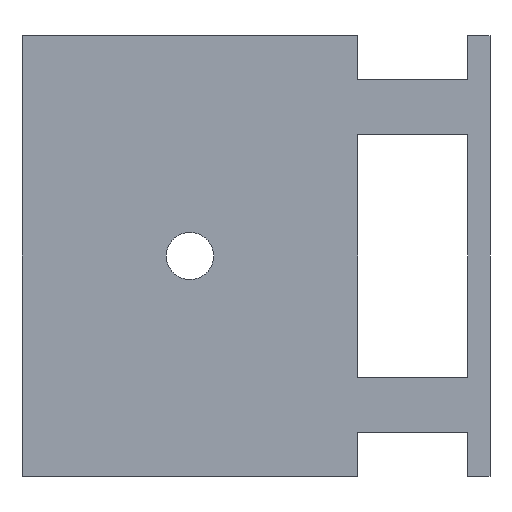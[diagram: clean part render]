
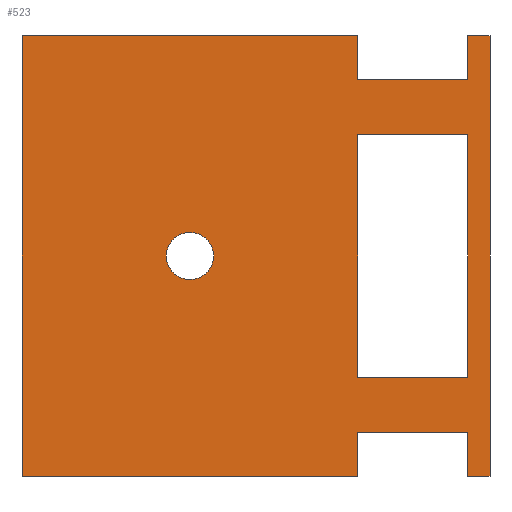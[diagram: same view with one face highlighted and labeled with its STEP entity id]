
A CAD part, front view. The second image highlights one B-rep face of the part: STEP entity #523.
In plain terms, the highlighted planar face has unit normal (0, -1, 0).
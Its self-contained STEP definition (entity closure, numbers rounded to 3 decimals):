
#1=DIRECTION('',(1.,0.,0.));
#2=VECTOR('',#1,30.5);
#3=CARTESIAN_POINT('',(-15.25,0.,-20.));
#4=LINE('',#3,#2);
#33=DIRECTION('',(1.,0.,0.));
#34=VECTOR('',#33,10.);
#35=CARTESIAN_POINT('',(15.25,0.,16.));
#36=LINE('',#35,#34);
#37=DIRECTION('',(1.,0.,0.));
#38=VECTOR('',#37,2.);
#39=CARTESIAN_POINT('',(25.25,0.,20.));
#40=LINE('',#39,#38);
#41=DIRECTION('',(0.,0.,1.));
#42=VECTOR('',#41,40.);
#43=CARTESIAN_POINT('',(-15.25,0.,-20.));
#44=LINE('',#43,#42);
#45=CARTESIAN_POINT('',(0.,0.,0.));
#46=DIRECTION('',(0.,1.,0.));
#47=DIRECTION('',(1.,0.,0.));
#48=AXIS2_PLACEMENT_3D('',#45,#46,#47);
#50=CARTESIAN_POINT('',(0.,0.,0.));
#51=DIRECTION('',(0.,1.,0.));
#52=DIRECTION('',(-1.,0.,0.));
#53=AXIS2_PLACEMENT_3D('',#50,#51,#52);
#55=DIRECTION('',(1.,0.,0.));
#56=VECTOR('',#55,10.);
#57=CARTESIAN_POINT('',(15.25,0.,-11.));
#58=LINE('',#57,#56);
#67=DIRECTION('',(0.,0.,-1.));
#68=VECTOR('',#67,22.);
#69=CARTESIAN_POINT('',(25.25,0.,11.));
#70=LINE('',#69,#68);
#71=DIRECTION('',(0.,0.,-1.));
#72=VECTOR('',#71,4.);
#73=CARTESIAN_POINT('',(25.25,0.,-16.));
#74=LINE('',#73,#72);
#87=DIRECTION('',(0.,0.,-1.));
#88=VECTOR('',#87,4.);
#89=CARTESIAN_POINT('',(25.25,0.,20.));
#90=LINE('',#89,#88);
#95=DIRECTION('',(1.,0.,0.));
#96=VECTOR('',#95,10.);
#97=CARTESIAN_POINT('',(15.25,0.,11.));
#98=LINE('',#97,#96);
#119=DIRECTION('',(0.,0.,1.));
#120=VECTOR('',#119,4.);
#121=CARTESIAN_POINT('',(15.25,0.,16.));
#122=LINE('',#121,#120);
#123=DIRECTION('',(0.,0.,1.));
#124=VECTOR('',#123,4.);
#125=CARTESIAN_POINT('',(15.25,0.,-20.));
#126=LINE('',#125,#124);
#139=DIRECTION('',(0.,0.,1.));
#140=VECTOR('',#139,22.);
#141=CARTESIAN_POINT('',(15.25,0.,-11.));
#142=LINE('',#141,#140);
#143=DIRECTION('',(1.,0.,0.));
#144=VECTOR('',#143,30.5);
#145=CARTESIAN_POINT('',(-15.25,0.,20.));
#146=LINE('',#145,#144);
#293=DIRECTION('',(1.,0.,0.));
#294=VECTOR('',#293,10.);
#295=CARTESIAN_POINT('',(15.25,0.,-16.));
#296=LINE('',#295,#294);
#313=DIRECTION('',(1.,0.,0.));
#314=VECTOR('',#313,2.);
#315=CARTESIAN_POINT('',(25.25,0.,-20.));
#316=LINE('',#315,#314);
#329=DIRECTION('',(0.,0.,-1.));
#330=VECTOR('',#329,40.);
#331=CARTESIAN_POINT('',(27.25,0.,20.));
#332=LINE('',#331,#330);
#341=CARTESIAN_POINT('',(-15.25,0.,-20.));
#342=CARTESIAN_POINT('',(15.25,0.,-20.));
#343=VERTEX_POINT('',#341);
#344=VERTEX_POINT('',#342);
#357=CARTESIAN_POINT('',(-15.25,0.,20.));
#358=CARTESIAN_POINT('',(15.25,0.,20.));
#359=VERTEX_POINT('',#357);
#360=VERTEX_POINT('',#358);
#373=CARTESIAN_POINT('',(2.15,0.,0.));
#374=CARTESIAN_POINT('',(-2.15,0.,0.));
#375=VERTEX_POINT('',#373);
#376=VERTEX_POINT('',#374);
#405=CARTESIAN_POINT('',(15.25,0.,11.));
#407=VERTEX_POINT('',#405);
#411=CARTESIAN_POINT('',(15.25,0.,16.));
#412=VERTEX_POINT('',#411);
#413=CARTESIAN_POINT('',(15.25,0.,-16.));
#415=VERTEX_POINT('',#413);
#419=CARTESIAN_POINT('',(15.25,0.,-11.));
#420=VERTEX_POINT('',#419);
#422=CARTESIAN_POINT('',(25.25,0.,20.));
#424=VERTEX_POINT('',#422);
#425=CARTESIAN_POINT('',(25.25,0.,-20.));
#427=VERTEX_POINT('',#425);
#430=CARTESIAN_POINT('',(27.25,0.,20.));
#432=VERTEX_POINT('',#430);
#433=CARTESIAN_POINT('',(27.25,0.,-20.));
#434=VERTEX_POINT('',#433);
#437=CARTESIAN_POINT('',(25.25,0.,11.));
#439=VERTEX_POINT('',#437);
#443=CARTESIAN_POINT('',(25.25,0.,16.));
#444=VERTEX_POINT('',#443);
#445=CARTESIAN_POINT('',(25.25,0.,-16.));
#447=VERTEX_POINT('',#445);
#451=CARTESIAN_POINT('',(25.25,0.,-11.));
#452=VERTEX_POINT('',#451);
#477=CARTESIAN_POINT('',(-15.25,0.,-20.));
#478=DIRECTION('',(0.,-1.,0.));
#479=DIRECTION('',(1.,0.,0.));
#480=AXIS2_PLACEMENT_3D('',#477,#478,#479);
#481=PLANE('',#480);
#483=ORIENTED_EDGE('',*,*,#482,.T.);
#485=ORIENTED_EDGE('',*,*,#484,.F.);
#487=ORIENTED_EDGE('',*,*,#486,.T.);
#489=ORIENTED_EDGE('',*,*,#488,.T.);
#491=ORIENTED_EDGE('',*,*,#490,.F.);
#493=ORIENTED_EDGE('',*,*,#492,.F.);
#495=ORIENTED_EDGE('',*,*,#494,.F.);
#497=ORIENTED_EDGE('',*,*,#496,.F.);
#498=ORIENTED_EDGE('',*,*,#458,.F.);
#500=ORIENTED_EDGE('',*,*,#499,.T.);
#502=ORIENTED_EDGE('',*,*,#501,.T.);
#504=ORIENTED_EDGE('',*,*,#503,.F.);
#505=EDGE_LOOP('',(#483,#485,#487,#489,#491,#493,#495,#497,#498,#500,#502,
#504));
#506=FACE_OUTER_BOUND('',#505,.F.);
#508=ORIENTED_EDGE('',*,*,#507,.F.);
#510=ORIENTED_EDGE('',*,*,#509,.F.);
#511=EDGE_LOOP('',(#508,#510));
#512=FACE_BOUND('',#511,.F.);
#514=ORIENTED_EDGE('',*,*,#513,.T.);
#516=ORIENTED_EDGE('',*,*,#515,.F.);
#518=ORIENTED_EDGE('',*,*,#517,.F.);
#520=ORIENTED_EDGE('',*,*,#519,.F.);
#521=EDGE_LOOP('',(#514,#516,#518,#520));
#522=FACE_BOUND('',#521,.F.);
#523=ADVANCED_FACE('',(#506,#512,#522),#481,.T.);
#49=CIRCLE('',#48,2.15);
#54=CIRCLE('',#53,2.15);
#458=EDGE_CURVE('',#343,#344,#4,.T.);
#482=EDGE_CURVE('',#412,#444,#36,.T.);
#484=EDGE_CURVE('',#424,#444,#90,.T.);
#486=EDGE_CURVE('',#424,#432,#40,.T.);
#488=EDGE_CURVE('',#432,#434,#332,.T.);
#490=EDGE_CURVE('',#427,#434,#316,.T.);
#492=EDGE_CURVE('',#447,#427,#74,.T.);
#494=EDGE_CURVE('',#415,#447,#296,.T.);
#496=EDGE_CURVE('',#344,#415,#126,.T.);
#499=EDGE_CURVE('',#343,#359,#44,.T.);
#501=EDGE_CURVE('',#359,#360,#146,.T.);
#503=EDGE_CURVE('',#412,#360,#122,.T.);
#507=EDGE_CURVE('',#375,#376,#49,.T.);
#509=EDGE_CURVE('',#376,#375,#54,.T.);
#513=EDGE_CURVE('',#420,#452,#58,.T.);
#515=EDGE_CURVE('',#439,#452,#70,.T.);
#517=EDGE_CURVE('',#407,#439,#98,.T.);
#519=EDGE_CURVE('',#420,#407,#142,.T.);
